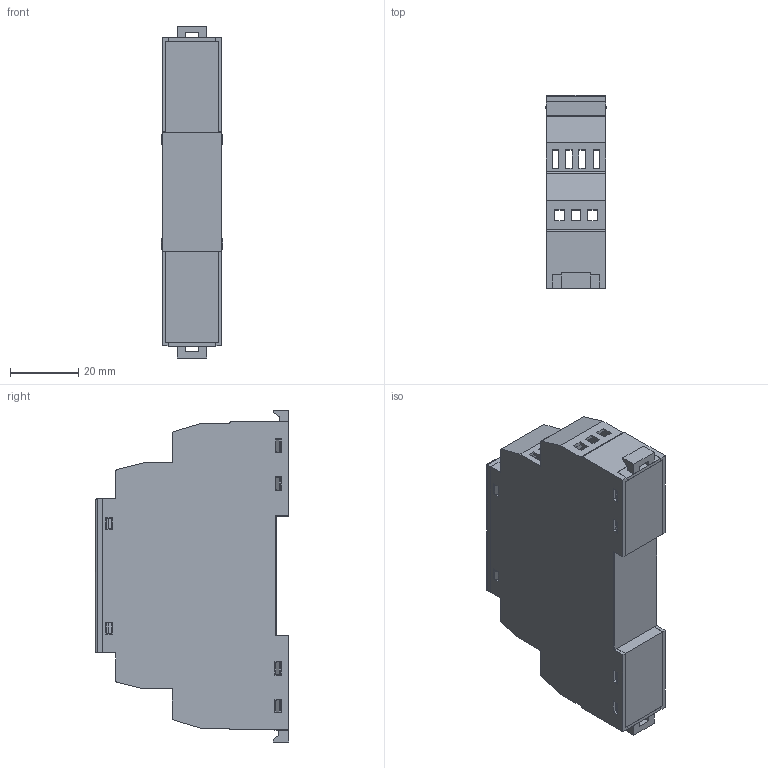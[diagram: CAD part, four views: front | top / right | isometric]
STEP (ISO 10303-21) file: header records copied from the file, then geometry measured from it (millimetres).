
FILE_DESCRIPTION (( 'STEP AP203' ), '1' );
FILE_NAME ('LEAKCOMP 1C (Baugruppe).STEP', '2020-10-01T14:31:19', ( '' ), ( '' ), 'SwSTEP 2.0', 'SolidWorks 2020', '' );
FILE_SCHEMA (( 'CONFIG_CONTROL_DESIGN' ));
Length unit declared in the file: millimetre
Products named in the file (4): LEAKCOMP 1C (Baugruppe); LEAKCOMP 1C (Mittelteil); LEAKCOMP 1C (Oberteil); LEAKCOMP 1C (Unterteil)
Assembly tree (3 placements, depth 2):
  LEAKCOMP 1C (Baugruppe)
    LEAKCOMP 1C (Mittelteil)
    LEAKCOMP 1C (Oberteil)
    LEAKCOMP 1C (Unterteil)
Bounding box: 18 x 56.5 x 97 mm (x, y, z)
Volume: 17450.2 mm3; surface area: 30622.2 mm2
Topology: 19 solids, 19 shells, 360 faces, 934 edges, 620 vertices
Faces by surface type: plane 306, cylinder 54
Entity records: 11408 total; most frequent: CARTESIAN_POINT 1932, ORIENTED_EDGE 1868, DIRECTION 1762, EDGE_CURVE 934, VECTOR 830, LINE 830, VERTEX_POINT 620, AXIS2_PLACEMENT_3D 466
